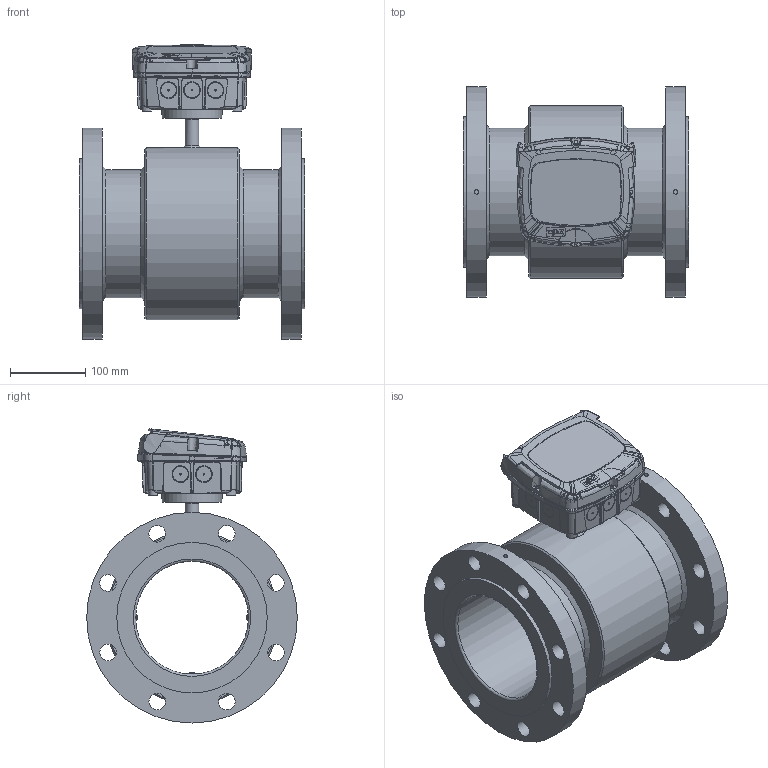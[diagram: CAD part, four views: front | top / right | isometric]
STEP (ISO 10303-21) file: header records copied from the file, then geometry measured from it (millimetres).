
FILE_DESCRIPTION((''),'2;1');
FILE_NAME('C:\Users\Claus\Dropbox\Projects 2011 - 2012\MJK Automation AS\DN 150 - ANSI B16,5.stp','2014-10-24T15:16:41',('Claus'),(''),'Autodesk Inventor 2013','Autodesk Inventor 2013','');
FILE_SCHEMA(('AUTOMOTIVE_DESIGN { 1 0 10303 214 1 1 1 1 }'));
Length unit declared in the file: millimetre
Products named in the file (7): DN 150 - ANSI B16,5; FC_MagFlux_assembly_r1; CH Bund ml; FC Top rev 06.04; CH 03.02; Electrode group DN15 - DN32
Assembly tree (8 placements, depth 3):
  DN 150 - ANSI B16,5
    DN 150 - ANSI B16,5
    FC_MagFlux_assembly_r1
      CH Bund ml
      FC Top rev 06.04
      CH 03.02
    Electrode group DN15 - DN32  x3
Bounding box: 300 x 280 x 390.84 mm (x, y, z)
Volume: 6149490.1 mm3; surface area: 806388.5 mm2
Topology: 10 solids, 10 shells, 2935 faces, 7994 edges, 5203 vertices
Faces by surface type: bspline 1752, plane 810, cylinder 210, cone 123, torus 25, revolution 9, sphere 6
Full cylindrical faces by diameter (mm): 2.5 x3, 3 x6, 4 x1, 6 x2, 6.5 x4, 7.042 x4, 8 x3, 8.048 x4, 12.072 x4, 15 x1, 18 x1, 18.108 x1, 22 x16, 64 x1, 150 x1, 170 x2, 200 x2, 229 x1, 280 x2
Entity records: 234060 total; most frequent: CARTESIAN_POINT 171564, ORIENTED_EDGE 15496, DIRECTION 7757, EDGE_CURVE 7748, VERTEX_POINT 5141, EDGE_LOOP 3273, VECTOR 3112, LINE 3112
